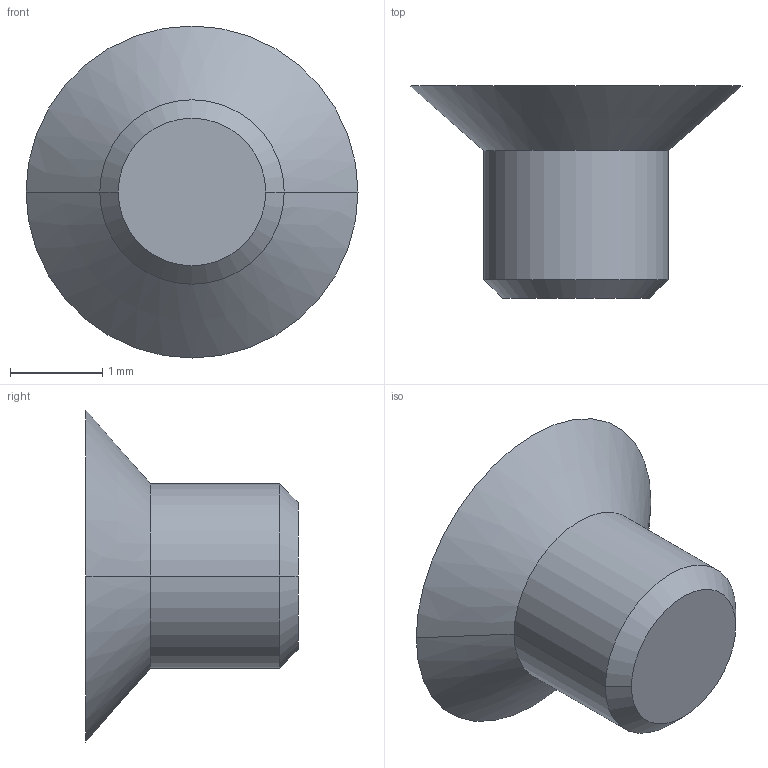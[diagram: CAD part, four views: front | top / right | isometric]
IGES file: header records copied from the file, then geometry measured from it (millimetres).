
Start section:  PTC IGES file: s20_20_outside_prt.igs
Global section: file name: s20_20_outside_prt.igs; native system: Pro/ENGINEER by Parametric Technology Corporation; preprocessor: 2000030; author: ECaille; organization: Unknown; date: 000803.092131; units: millimetre
Bounding box: 3.6 x 2.3 x 3.6 mm (x, y, z)
Surface area: 34.7 mm2 (no closed solid volume)
Topology: 0 solids, 0 shells, 21 faces, 159 edges, 214 vertices
Faces by surface type: bspline 15, revolution 6
